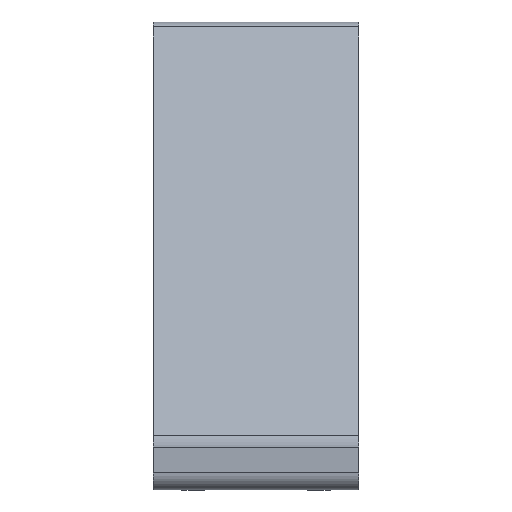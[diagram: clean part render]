
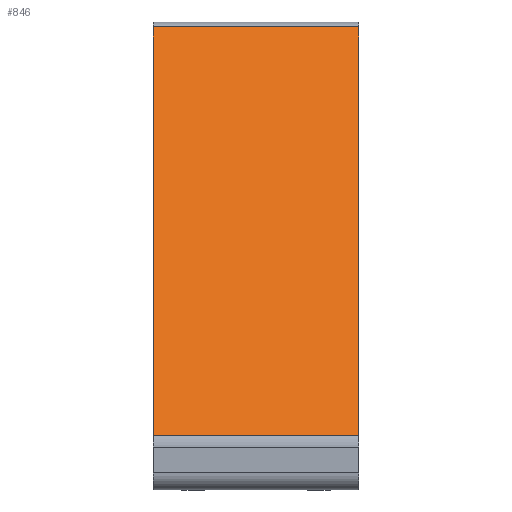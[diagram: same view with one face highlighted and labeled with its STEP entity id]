
A CAD part, top view. The second image highlights one B-rep face of the part: STEP entity #846.
In plain terms, the highlighted planar face has unit normal (0, 0.707, 0.707) as drawn and (0, 1, 0) by its records, which use the part's own axes.
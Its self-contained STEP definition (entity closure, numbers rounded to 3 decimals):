
#158=ORIENTED_EDGE('',*,*,#337,.T.);
#159=ORIENTED_EDGE('',*,*,#375,.F.);
#160=ORIENTED_EDGE('',*,*,#376,.F.);
#161=ORIENTED_EDGE('',*,*,#373,.T.);
#337=EDGE_CURVE('',#456,#455,#537,.T.);
#373=EDGE_CURVE('',#478,#456,#569,.T.);
#375=EDGE_CURVE('',#479,#455,#570,.T.);
#376=EDGE_CURVE('',#478,#479,#571,.T.);
#455=VERTEX_POINT('',#1271);
#456=VERTEX_POINT('',#1273);
#478=VERTEX_POINT('',#1339);
#479=VERTEX_POINT('',#1343);
#537=LINE('',#1272,#639);
#569=LINE('',#1338,#671);
#570=LINE('',#1342,#672);
#571=LINE('',#1344,#673);
#639=VECTOR('',#1013,1000.);
#671=VECTOR('',#1069,1000.);
#672=VECTOR('',#1074,1000.);
#673=VECTOR('',#1075,1000.);
#720=EDGE_LOOP('',(#158,#159,#160,#161));
#766=FACE_BOUND('',#720,.T.);
#808=PLANE('',#914);
#846=ADVANCED_FACE('',(#766),#808,.F.);
#914=AXIS2_PLACEMENT_3D('',#1341,#1072,#1073);
#1013=DIRECTION('',(-1.,0.,0.));
#1069=DIRECTION('',(0.,0.,-1.));
#1072=DIRECTION('',(0.,-1.,0.));
#1073=DIRECTION('',(0.,0.,-1.));
#1074=DIRECTION('',(0.,0.,-1.));
#1075=DIRECTION('',(-1.,0.,0.));
#1271=CARTESIAN_POINT('',(-25.319,27.8,-9.));
#1272=CARTESIAN_POINT('',(25.319,27.8,-9.));
#1273=CARTESIAN_POINT('',(25.319,27.8,-9.));
#1338=CARTESIAN_POINT('',(25.319,27.8,9.));
#1339=CARTESIAN_POINT('',(25.319,27.8,9.));
#1341=CARTESIAN_POINT('',(25.319,27.8,9.));
#1342=CARTESIAN_POINT('',(-25.319,27.8,9.));
#1343=CARTESIAN_POINT('',(-25.319,27.8,9.));
#1344=CARTESIAN_POINT('',(25.319,27.8,9.));
